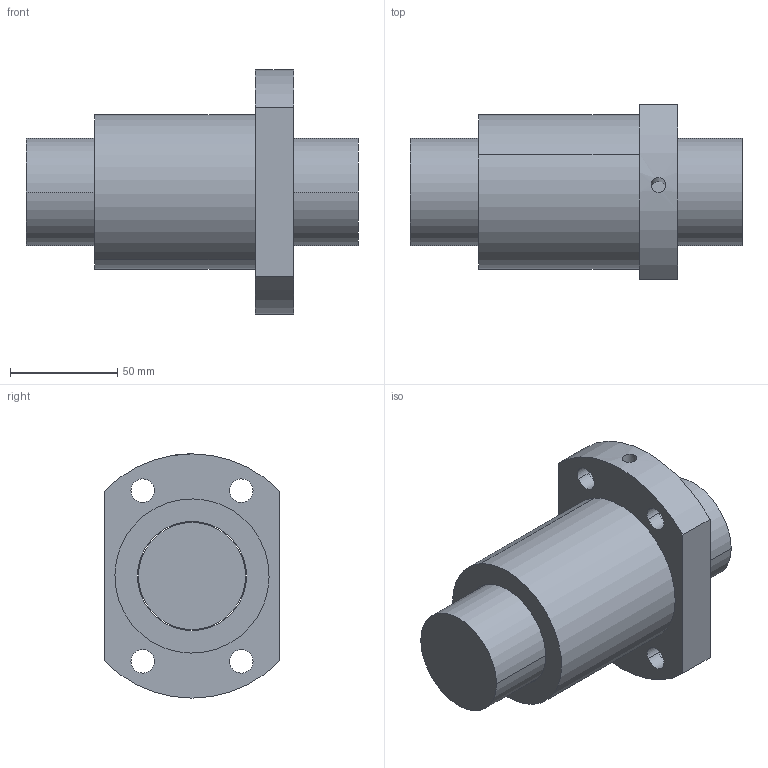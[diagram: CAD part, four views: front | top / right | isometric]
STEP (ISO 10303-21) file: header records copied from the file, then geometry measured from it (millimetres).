
FILE_DESCRIPTION(('CATIA V5 STEP Exchange'),'2;1');
FILE_NAME('C:\Users\aa\Documents\이댈\볼스크류\SFDR\완성품\SFD5010D.stp','2019-07-24T03:08:01+00:00',('none'),('none'),'CATIA Version 5 Release 20 SP 7 (IN-10)','CATIA V5 STEP AP203','none');
FILE_SCHEMA(('CONFIG_CONTROL_DESIGN'));
Length unit declared in the file: millimetre
Products named in the file (1): SFD5010D
Bounding box: 155 x 82 x 114 mm (x, y, z)
Volume: 557637.5 mm3; surface area: 82363.8 mm2
Topology: 2 solids, 2 shells, 37 faces, 84 edges, 56 vertices
Faces by surface type: cylinder 26, plane 11
Entity records: 1050 total; most frequent: CARTESIAN_POINT 218, ORIENTED_EDGE 168, DIRECTION 122, EDGE_CURVE 84, AXIS2_PLACEMENT_3D 70, VERTEX_POINT 56, EDGE_LOOP 54, CIRCLE 48
